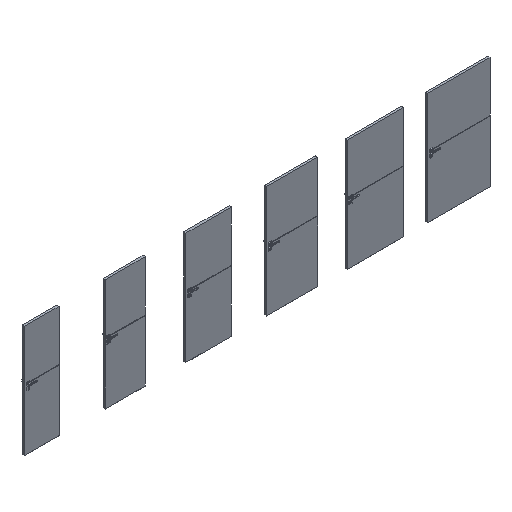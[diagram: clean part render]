
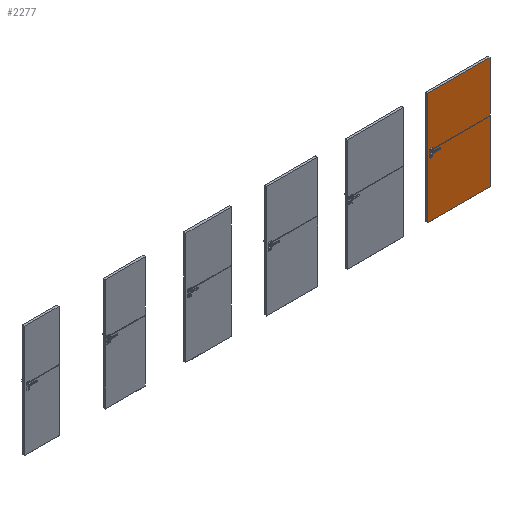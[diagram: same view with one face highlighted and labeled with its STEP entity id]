
A CAD part, isometric view. The second image highlights one B-rep face of the part: STEP entity #2277.
In plain terms, the highlighted planar face has unit normal (0, -1, 0).
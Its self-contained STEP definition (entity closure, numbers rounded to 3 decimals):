
#2277=ADVANCED_FACE('',(#3951),#3080,.F.);
#3080=PLANE('',#19644);
#3951=FACE_OUTER_BOUND('',#5139,.T.);
#5139=EDGE_LOOP('',(#11759,#11760,#11761,#11762,#11763,#11764,#11765,#11766));
#6567=LINE('',#33441,#8043);
#6568=LINE('',#33444,#8044);
#6569=LINE('',#33446,#8045);
#6570=LINE('',#33448,#8046);
#6571=LINE('',#33450,#8047);
#6572=LINE('',#33452,#8048);
#6573=LINE('',#33454,#8049);
#6574=LINE('',#33456,#8050);
#8043=VECTOR('',#23366,1.);
#8044=VECTOR('',#23367,1.);
#8045=VECTOR('',#23368,1.);
#8046=VECTOR('',#23369,1.);
#8047=VECTOR('',#23370,1.);
#8048=VECTOR('',#23371,1.);
#8049=VECTOR('',#23372,1.);
#8050=VECTOR('',#23373,1.);
#11759=ORIENTED_EDGE('',*,*,#16863,.F.);
#11760=ORIENTED_EDGE('',*,*,#16864,.F.);
#11761=ORIENTED_EDGE('',*,*,#16865,.T.);
#11762=ORIENTED_EDGE('',*,*,#16866,.F.);
#11763=ORIENTED_EDGE('',*,*,#16867,.F.);
#11764=ORIENTED_EDGE('',*,*,#16868,.T.);
#11765=ORIENTED_EDGE('',*,*,#16869,.T.);
#11766=ORIENTED_EDGE('',*,*,#16870,.F.);
#14689=VERTEX_POINT('',#33442);
#14690=VERTEX_POINT('',#33443);
#14691=VERTEX_POINT('',#33445);
#14692=VERTEX_POINT('',#33447);
#14693=VERTEX_POINT('',#33449);
#14694=VERTEX_POINT('',#33451);
#14695=VERTEX_POINT('',#33453);
#14696=VERTEX_POINT('',#33455);
#16863=EDGE_CURVE('',#14689,#14690,#6567,.T.);
#16864=EDGE_CURVE('',#14691,#14689,#6568,.T.);
#16865=EDGE_CURVE('',#14691,#14692,#6569,.T.);
#16866=EDGE_CURVE('',#14693,#14692,#6570,.T.);
#16867=EDGE_CURVE('',#14694,#14693,#6571,.T.);
#16868=EDGE_CURVE('',#14694,#14695,#6572,.T.);
#16869=EDGE_CURVE('',#14695,#14696,#6573,.T.);
#16870=EDGE_CURVE('',#14690,#14696,#6574,.T.);
#19644=AXIS2_PLACEMENT_3D('',#33457,#23374,#23375);
#23366=DIRECTION('',(1.,0.,0.));
#23367=DIRECTION('',(0.,0.,-1.));
#23368=DIRECTION('',(1.,0.,0.));
#23369=DIRECTION('',(0.,0.,-1.));
#23370=DIRECTION('',(1.,0.,0.));
#23371=DIRECTION('',(0.,0.,-1.));
#23372=DIRECTION('',(1.,0.,0.));
#23373=DIRECTION('',(0.,0.,-1.));
#23374=DIRECTION('',(0.,1.,0.));
#23375=DIRECTION('',(-1.,0.,0.));
#33441=CARTESIAN_POINT('',(8059.,-39.3,1101.));
#33442=CARTESIAN_POINT('',(6996.,-39.3,1101.));
#33443=CARTESIAN_POINT('',(8059.,-39.3,1101.));
#33444=CARTESIAN_POINT('',(6996.,-39.3,1107.));
#33445=CARTESIAN_POINT('',(6996.,-39.3,1107.));
#33446=CARTESIAN_POINT('',(8059.,-39.3,1107.));
#33447=CARTESIAN_POINT('',(8059.,-39.3,1107.));
#33448=CARTESIAN_POINT('',(8059.,-39.3,2017.));
#33449=CARTESIAN_POINT('',(8059.,-39.3,2017.));
#33450=CARTESIAN_POINT('',(7191.,-39.3,2017.));
#33451=CARTESIAN_POINT('',(6941.,-39.3,2017.));
#33452=CARTESIAN_POINT('',(6941.,-39.3,2017.));
#33453=CARTESIAN_POINT('',(6941.,-39.3,2.));
#33454=CARTESIAN_POINT('',(7191.,-39.3,2.));
#33455=CARTESIAN_POINT('',(8059.,-39.3,2.));
#33456=CARTESIAN_POINT('',(8059.,-39.3,2017.));
#33457=CARTESIAN_POINT('',(7191.,-39.3,2017.));
